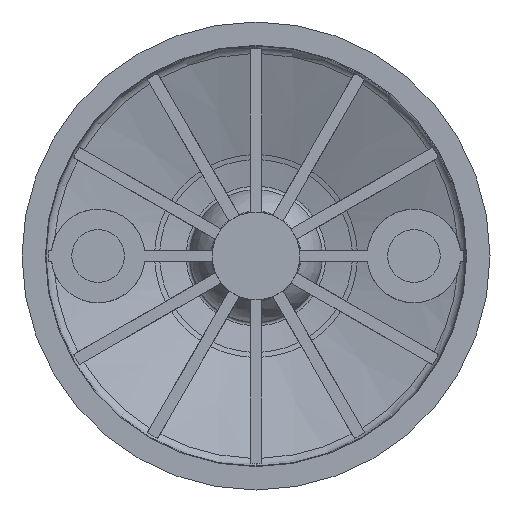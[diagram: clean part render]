
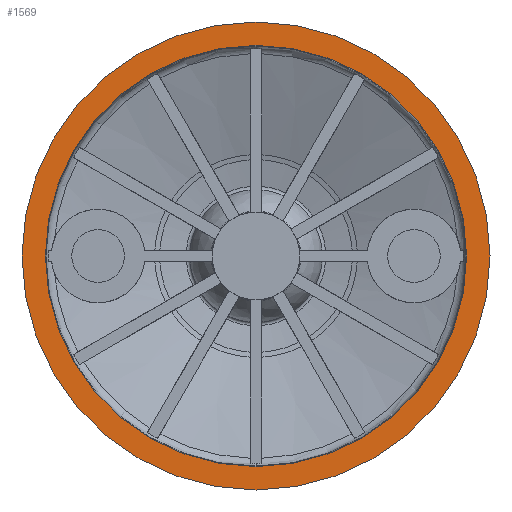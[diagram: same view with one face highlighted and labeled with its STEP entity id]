
A CAD part, front view. The second image highlights one B-rep face of the part: STEP entity #1569.
In plain terms, the highlighted planar face has unit normal (0, -1, 0).
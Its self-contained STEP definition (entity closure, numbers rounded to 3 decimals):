
#165 = CARTESIAN_POINT ( 'NONE',  ( 0., 0., 0. ) ) ;
#358 = EDGE_LOOP ( 'NONE', ( #2914, #7575 ) ) ;
#486 = CARTESIAN_POINT ( 'NONE',  ( 0., 0., 0. ) ) ;
#724 = AXIS2_PLACEMENT_3D ( 'NONE', #165, #3621, #5612 ) ;
#828 = CARTESIAN_POINT ( 'NONE',  ( 0., 0., 35.998 ) ) ;
#1387 = DIRECTION ( 'NONE',  ( 0., 1., 0. ) ) ;
#1419 = CARTESIAN_POINT ( 'NONE',  ( 0., 0., 0. ) ) ;
#1569 = ADVANCED_FACE ( 'NONE', ( #4135, #8279 ), #5712, .F. ) ;
#1894 = ORIENTED_EDGE ( 'NONE', *, *, #8379, .T. ) ;
#2173 = VERTEX_POINT ( 'NONE', #3387 ) ;
#2242 = CARTESIAN_POINT ( 'NONE',  ( 0., 0., -40. ) ) ;
#2380 = AXIS2_PLACEMENT_3D ( 'NONE', #486, #4673, #5256 ) ;
#2440 = CARTESIAN_POINT ( 'NONE',  ( 0., 0., 0. ) ) ;
#2585 = DIRECTION ( 'NONE',  ( 0., 0., 1. ) ) ;
#2693 = CIRCLE ( 'NONE', #6932, 40. ) ;
#2868 = CIRCLE ( 'NONE', #2380, 35.998 ) ;
#2889 = CIRCLE ( 'NONE', #4641, 35.998 ) ;
#2914 = ORIENTED_EDGE ( 'NONE', *, *, #8101, .F. ) ;
#3020 = EDGE_LOOP ( 'NONE', ( #4540, #1894 ) ) ;
#3387 = CARTESIAN_POINT ( 'NONE',  ( 0., 0., 40. ) ) ;
#3617 = EDGE_CURVE ( 'NONE', #8151, #4276, #2889, .T. ) ;
#3621 = DIRECTION ( 'NONE',  ( 0., 1., 0. ) ) ;
#3623 = CIRCLE ( 'NONE', #724, 40. ) ;
#3695 = EDGE_CURVE ( 'NONE', #2173, #7097, #2693, .T. ) ;
#4135 = FACE_BOUND ( 'NONE', #3020, .T. ) ;
#4267 = CARTESIAN_POINT ( 'NONE',  ( 0., 0., 0. ) ) ;
#4276 = VERTEX_POINT ( 'NONE', #828 ) ;
#4332 = DIRECTION ( 'NONE',  ( 0., 0., 1. ) ) ;
#4444 = CARTESIAN_POINT ( 'NONE',  ( 0., 0., -35.998 ) ) ;
#4540 = ORIENTED_EDGE ( 'NONE', *, *, #3617, .T. ) ;
#4641 = AXIS2_PLACEMENT_3D ( 'NONE', #1419, #1387, #4776 ) ;
#4673 = DIRECTION ( 'NONE',  ( 0., 1., 0. ) ) ;
#4776 = DIRECTION ( 'NONE',  ( 0., 0., 1. ) ) ;
#5256 = DIRECTION ( 'NONE',  ( 0., 0., 1. ) ) ;
#5603 = AXIS2_PLACEMENT_3D ( 'NONE', #4267, #6313, #4332 ) ;
#5612 = DIRECTION ( 'NONE',  ( 0., 0., 1. ) ) ;
#5712 = PLANE ( 'NONE',  #5603 ) ;
#6313 = DIRECTION ( 'NONE',  ( 0., 1., 0. ) ) ;
#6755 = DIRECTION ( 'NONE',  ( 0., 1., 0. ) ) ;
#6932 = AXIS2_PLACEMENT_3D ( 'NONE', #2440, #6755, #2585 ) ;
#7097 = VERTEX_POINT ( 'NONE', #2242 ) ;
#7575 = ORIENTED_EDGE ( 'NONE', *, *, #3695, .F. ) ;
#8101 = EDGE_CURVE ( 'NONE', #7097, #2173, #3623, .T. ) ;
#8151 = VERTEX_POINT ( 'NONE', #4444 ) ;
#8279 = FACE_OUTER_BOUND ( 'NONE', #358, .T. ) ;
#8379 = EDGE_CURVE ( 'NONE', #4276, #8151, #2868, .T. ) ;
